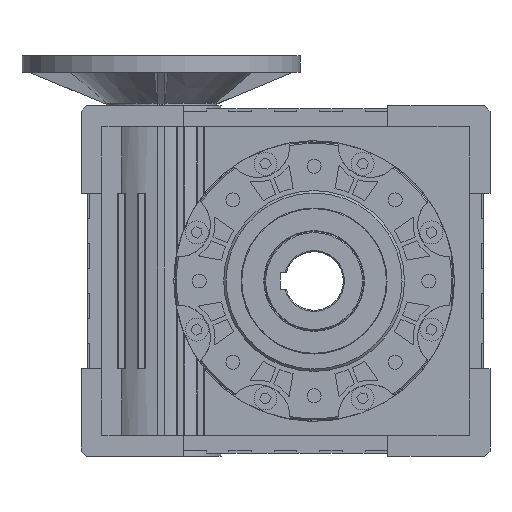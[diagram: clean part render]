
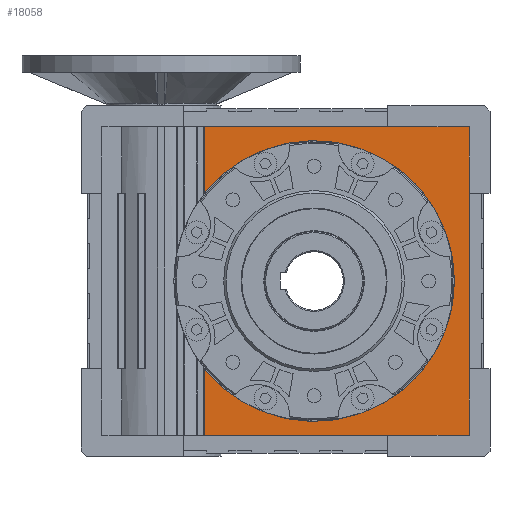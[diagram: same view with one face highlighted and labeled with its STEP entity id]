
A CAD part, left-side view. The second image highlights one B-rep face of the part: STEP entity #18058.
In plain terms, the highlighted planar face has unit normal (-1, 0, 0).
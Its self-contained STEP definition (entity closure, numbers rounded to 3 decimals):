
#1184=LINE('',#28258,#2942);
#1301=LINE('',#28541,#3059);
#1341=LINE('',#28641,#3099);
#1515=LINE('',#29181,#3273);
#1516=LINE('',#29182,#3274);
#2942=VECTOR('',#22941,1000.);
#3059=VECTOR('',#23170,1000.);
#3099=VECTOR('',#23268,1000.);
#3273=VECTOR('',#23710,1000.);
#3274=VECTOR('',#23711,1000.);
#4764=FACE_OUTER_BOUND('',#5876,.T.);
#5876=EDGE_LOOP('',(#14475,#14476,#14477,#14478,#14479,#14480));
#6718=CIRCLE('',#19566,100.8);
#7881=VERTEX_POINT('',#28255);
#7882=VERTEX_POINT('',#28257);
#7991=VERTEX_POINT('',#28538);
#7992=VERTEX_POINT('',#28540);
#8192=VERTEX_POINT('',#29178);
#8193=VERTEX_POINT('',#29179);
#9963=EDGE_CURVE('',#7881,#7882,#1184,.T.);
#10108=EDGE_CURVE('',#7991,#7992,#1301,.T.);
#10159=EDGE_CURVE('',#7992,#7881,#1341,.T.);
#10410=EDGE_CURVE('',#8192,#8193,#6718,.T.);
#10411=EDGE_CURVE('',#8192,#7882,#1515,.T.);
#10412=EDGE_CURVE('',#7991,#8193,#1516,.T.);
#14475=ORIENTED_EDGE('',*,*,#10410,.F.);
#14476=ORIENTED_EDGE('',*,*,#10411,.T.);
#14477=ORIENTED_EDGE('',*,*,#9963,.F.);
#14478=ORIENTED_EDGE('',*,*,#10159,.F.);
#14479=ORIENTED_EDGE('',*,*,#10108,.F.);
#14480=ORIENTED_EDGE('',*,*,#10412,.T.);
#16247=PLANE('',#19565);
#18058=ADVANCED_FACE('',(#4764),#16247,.F.);
#19565=AXIS2_PLACEMENT_3D('',#29177,#23706,#23707);
#19566=AXIS2_PLACEMENT_3D('',#29180,#23708,#23709);
#22941=DIRECTION('',(0.,1.,0.));
#23170=DIRECTION('',(0.,-1.,0.));
#23268=DIRECTION('',(0.,0.,-1.));
#23706=DIRECTION('center_axis',(1.,0.,0.));
#23707=DIRECTION('ref_axis',(0.,0.,
-1.));
#23708=DIRECTION('center_axis',(-1.,0.,0.));
#23709=DIRECTION('ref_axis',(0.,0.,
-1.));
#23710=DIRECTION('',(0.,0.,-1.));
#23711=DIRECTION('',(0.,0.,-1.));
#28255=CARTESIAN_POINT('',(202.775,540.827,-91.39));
#28257=CARTESIAN_POINT('',(202.775,731.244,-91.39));
#28258=CARTESIAN_POINT('',(202.775,540.827,-91.39));
#28538=CARTESIAN_POINT('',(202.775,731.244,130.61));
#28540=CARTESIAN_POINT('',(202.775,540.827,130.61));
#28541=CARTESIAN_POINT('',(202.775,540.827,130.61));
#28641=CARTESIAN_POINT('',(202.775,540.827,130.61));
#29177=CARTESIAN_POINT('Origin',(202.775,540.827,130.61));
#29178=CARTESIAN_POINT('',(202.775,731.244,-43.102));
#29179=CARTESIAN_POINT('',(202.775,731.244,82.322));
#29180=CARTESIAN_POINT('Origin',(202.775,652.327,19.61));
#29181=CARTESIAN_POINT('',(202.775,731.244,130.61));
#29182=CARTESIAN_POINT('',(202.775,731.244,130.61));
